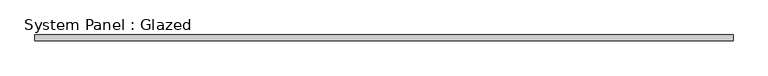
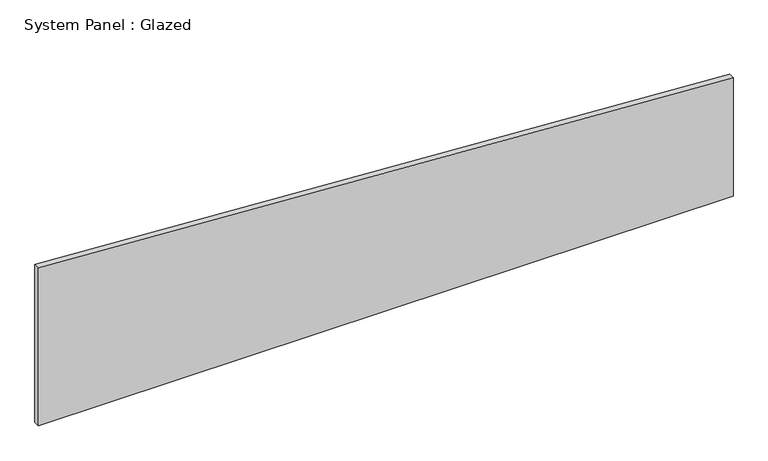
"""IFC4 building model written with IfcOpenShell, lengths in millimetres: plate geometry, System Panel : Glazed."""

from ifc_helpers import new_model, si_unit, frame, origin, place, context, project, spatial, polyline, outline, extrude, source, transform, mapped, element, save


def system_panel_glazed_38bebc52(model_context):
    return source(origin(), model_context, "Body", "SweptSolid", [
        extrude(outline(polyline([(0.0, -1504.95), (0.0, 1504.95), (542.745289, 1504.95), (723.0018173, -1504.95), (0.0, -1504.95)])), frame((0.0, 19.05, 0.0), z_axis=(0.0, 1.0, 0.0), x_axis=(0.0, 0.0, 1.0)), (0.0, 0.0, 1.0), 25.4),
    ])


if __name__ == "__main__":
    model = new_model("IFC4")
    model_context = context("Model", 3, world=origin())
    ifc_project = project(units=[si_unit("LENGTHUNIT", "METRE", prefix="MILLI")], contexts=[model_context])
    site = spatial("IfcSite", under=ifc_project)
    building = spatial("IfcBuilding", under=site)
    placement = place(None, origin())
    system_panel_glazed_shape = system_panel_glazed_38bebc52(model_context)
    element("IfcPlate", 1, ObjectType="System Panel : Glazed", at=placement, inside=building, context=model_context, shape_type="MappedRepresentation", body=[
        mapped(system_panel_glazed_shape, transform((0.0, 0.0, 0.0), x_axis=(1.0, 0.0, 0.0), y_axis=(0.0, 1.0, 0.0), z_axis=(0.0, 0.0, 1.0))),
    ])
    save(model, "model.ifc")
